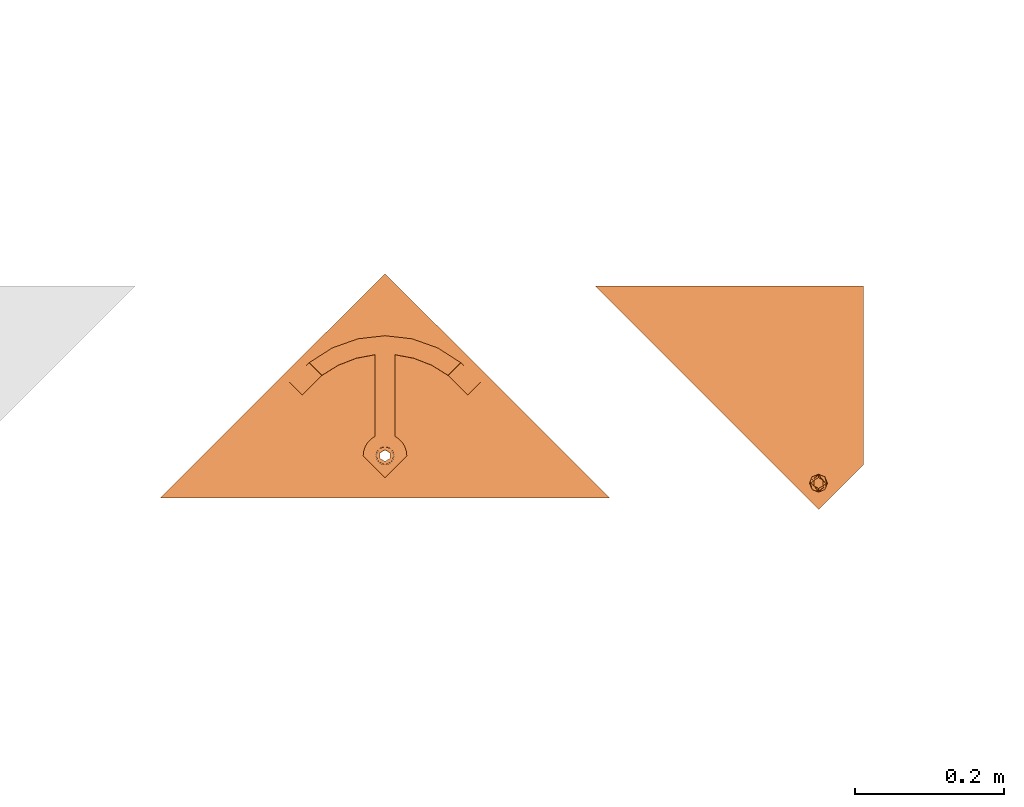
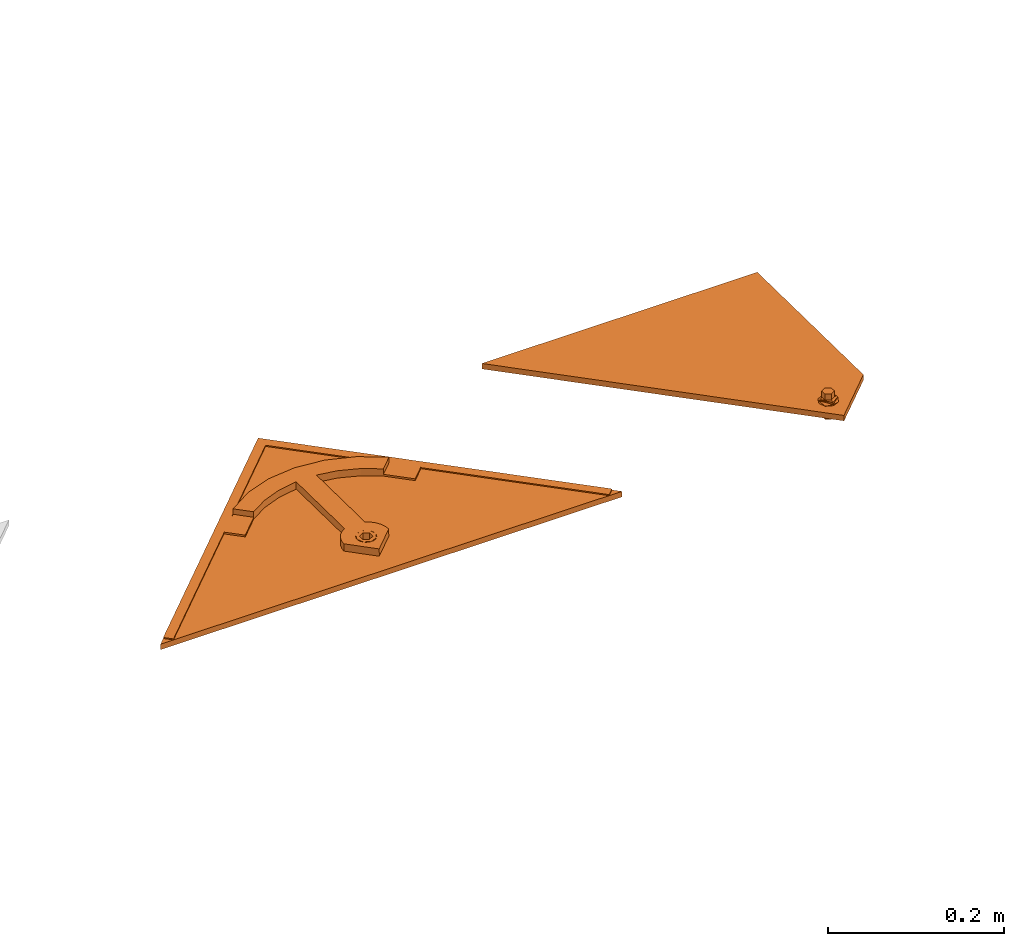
# One storey, part 125 of 151: 2 proxies.
"""IFC2X3 building model written with IfcOpenShell, lengths in millimetres."""

from ifc_helpers import new_model, entity, si_unit, converted_unit, derived_unit, direction, frame, origin, place, context, subcontext, project, spatial, faceted_brep, source, transform, mapped, material, material_list, type_object, type_shapes, element, save


model = new_model("IFC2X3")

# Units and contexts
model_context = context("Model", 3, precision=0.01, world=origin(), true_north=direction((6.12303176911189e-17, 1.0)))
body_context = subcontext(model_context, "Body", "Model", "MODEL_VIEW")
ifc_project = project(units=[si_unit("LENGTHUNIT", "METRE", prefix="MILLI"), si_unit("AREAUNIT", "SQUARE_METRE"), si_unit("VOLUMEUNIT", "CUBIC_METRE"), converted_unit("PLANEANGLEUNIT", "DEGREE", entity("IfcRatioMeasure", 0.0174532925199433), si_unit("PLANEANGLEUNIT", "RADIAN"), dimensions=[0, 0, 0, 0, 0, 0, 0]), si_unit("MASSUNIT", "GRAM", prefix="KILO"), derived_unit("MASSDENSITYUNIT", [(si_unit("MASSUNIT", "GRAM", prefix="KILO"), 1), (si_unit("LENGTHUNIT", "METRE"), -3)]), si_unit("TIMEUNIT", "SECOND"), si_unit("FREQUENCYUNIT", "HERTZ"), si_unit("THERMODYNAMICTEMPERATUREUNIT", "DEGREE_CELSIUS"), derived_unit("THERMALTRANSMITTANCEUNIT", [(si_unit("MASSUNIT", "GRAM", prefix="KILO"), 1), (si_unit("THERMODYNAMICTEMPERATUREUNIT", "KELVIN"), -1), (si_unit("TIMEUNIT", "SECOND"), -3)]), derived_unit("VOLUMETRICFLOWRATEUNIT", [(si_unit("LENGTHUNIT", "METRE"), 3), (si_unit("TIMEUNIT", "SECOND"), -1)]), si_unit("ELECTRICCURRENTUNIT", "AMPERE"), si_unit("ELECTRICVOLTAGEUNIT", "VOLT"), si_unit("POWERUNIT", "WATT"), si_unit("FORCEUNIT", "NEWTON", prefix="KILO"), si_unit("ILLUMINANCEUNIT", "LUX"), si_unit("LUMINOUSFLUXUNIT", "LUMEN"), si_unit("LUMINOUSINTENSITYUNIT", "CANDELA"), derived_unit("USERDEFINED", [(si_unit("MASSUNIT", "GRAM", prefix="KILO"), -1), (si_unit("LENGTHUNIT", "METRE"), -2), (si_unit("TIMEUNIT", "SECOND"), 3), (si_unit("LUMINOUSFLUXUNIT", "LUMEN"), 1)]), derived_unit("LINEARVELOCITYUNIT", [(si_unit("LENGTHUNIT", "METRE"), 1), (si_unit("TIMEUNIT", "SECOND"), -1)]), si_unit("PRESSUREUNIT", "PASCAL"), derived_unit("USERDEFINED", [(si_unit("LENGTHUNIT", "METRE"), -2), (si_unit("MASSUNIT", "GRAM", prefix="KILO"), 1), (si_unit("TIMEUNIT", "SECOND"), -2)])], contexts=[model_context])

# Site, building, storey
site_placement = place(None, origin())
site = spatial("IfcSite", under=ifc_project, at=site_placement, Name="Default", CompositionType="ELEMENT")
building_placement = place(site_placement, origin())
building = spatial("IfcBuilding", under=site, at=building_placement, CompositionType="ELEMENT")
storey_placement = place(building_placement, origin())
storey = spatial("IfcBuildingStorey", under=building, at=storey_placement, Name="Level 1", CompositionType="ELEMENT", Elevation=0.0)

# Proxies
ifc_material_1 = material(Name="Rubber - Sunstyle - Black")
ifc_material_2 = material(Name="Glass - Sunstyle - Tainted Black")
ifc_material_list_1 = material_list([ifc_material_1, ifc_material_2])
ifc_material_list_2 = material_list([ifc_material_1, ifc_material_2])
building_element_proxy_type_1 = type_object("IfcBuildingElementProxyType", Name="Shingle Bottom Small - Black", PredefinedType="NOTDEFINED", material=ifc_material_list_2)
shared_shape_1 = source(origin(), body_context, "Body", "Brep", [
    faceted_brep([(302.08842791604, 44.9093317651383, 22.0558382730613), (302.08842791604, 49.408700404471, 21.980485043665), (293.484723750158, 48.4726030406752, 21.9961623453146), (310.692132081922, 48.4726030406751, 21.9961623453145), (308.728656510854, 53.2419006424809, 21.9162884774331), (314.255903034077, 57.0751008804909, 21.8520919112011), (308.728656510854, 60.9083011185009, 21.7878953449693), (310.692132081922, 65.6775987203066, 21.7080214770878), (302.08842791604, 64.7415013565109, 21.7236987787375), (302.08842791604, 69.2408699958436, 21.6483455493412), (293.484723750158, 65.6775987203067, 21.708021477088), (295.448199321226, 60.908301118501, 21.7878953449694), (289.920952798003, 57.0751008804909, 21.8520919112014), (295.448199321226, 53.2419006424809, 21.9162884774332), (295.448199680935, 60.6403782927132, 5.79013870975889), (302.08842791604, 64.473578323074, 5.72594214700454), (295.448199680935, 52.9739782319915, 5.91853183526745), (302.08842791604, 49.1407782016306, 5.98272839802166), (308.728656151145, 52.9739782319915, 5.91853183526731), (308.728656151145, 60.6403782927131, 5.79013870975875), (293.484723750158, 48.2046804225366, 5.99840570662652), (302.08842791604, 44.6414091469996, 6.05808163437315), (289.920952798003, 56.8071782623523, 5.85433527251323), (293.484723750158, 65.4096761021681, 5.71026483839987), (302.08842791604, 68.972947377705, 5.65058891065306), (310.692132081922, 65.409676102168, 5.71026483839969), (314.255903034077, 56.8071782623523, 5.85433527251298), (310.692132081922, 48.2046804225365, 5.99840570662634)], [[[0, 1, 2]], [[1, 0, 3]], [[3, 4, 1]], [[4, 3, 5]], [[6, 4, 5]], [[5, 7, 6]], [[7, 8, 6]], [[8, 7, 9]], [[8, 9, 10]], [[10, 11, 8]], [[12, 11, 10]], [[2, 13, 12]], [[12, 13, 11]], [[13, 2, 1]], [[8, 11, 14, 15]], [[11, 13, 16, 14]], [[13, 1, 17, 16]], [[1, 4, 18, 17]], [[4, 6, 19, 18]], [[6, 8, 15, 19]], [[20, 17, 21]], [[17, 20, 16]], [[22, 16, 20]], [[14, 16, 22]], [[23, 14, 22]], [[15, 14, 23]], [[23, 24, 15]], [[24, 25, 15]], [[19, 15, 25]], [[19, 25, 26]], [[26, 18, 19]], [[26, 27, 18]], [[17, 18, 27]], [[27, 21, 17]], [[24, 23, 10, 9]], [[10, 23, 22, 12]], [[20, 21, 0, 2]], [[20, 2, 12, 22]], [[21, 27, 3, 0]], [[3, 27, 26, 5]], [[25, 24, 9, 7]], [[25, 7, 5, 26]]]),
    faceted_brep([(587.35835892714, 0.0, 12.5593198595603), (595.843045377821, 8.4846864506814, 12.4172224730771), (595.843045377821, 8.50980419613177, 13.9170121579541), (587.35835892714, 0.0251177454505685, 14.0591095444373), (302.088750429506, 285.189618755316, 7.7831033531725), (16.8191419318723, 0.0, 12.5593198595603), (8.33445548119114, 8.48468645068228, 12.4172224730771), (302.088750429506, 302.156612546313, 7.49894842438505), (302.088750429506, 302.181730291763, 8.9987381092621), (8.33445548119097, 8.50980419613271, 13.9170121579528), (16.8191419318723, 0.0251177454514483, 14.0591095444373), (302.088750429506, 285.214736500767, 9.28289303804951)], [[[0, 1, 2, 3]], [[1, 0, 4, 5, 6, 7]], [[2, 1, 7, 8]], [[3, 2, 8, 9, 10, 11]], [[0, 3, 11, 4]], [[5, 10, 9, 6]], [[8, 7, 6, 9]], [[4, 11, 10, 5]]]),
    faceted_brep([(302.088750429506, 302.156612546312, 7.49894842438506), (305.194256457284, 68.3255429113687, 11.4150370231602), (308.088427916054, 67.1269059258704, 11.4351112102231), (302.088427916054, 68.7343756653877, 11.4081900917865), (310.573709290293, 65.2201498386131, 11.4670446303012), (298.982599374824, 68.3255429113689, 11.4150370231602), (296.088427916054, 67.1269059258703, 11.4351112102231), (293.603146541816, 65.2201498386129, 11.4670446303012), (312.480732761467, 62.7352169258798, 11.5086610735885), (604.177500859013, 0.152567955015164, 12.5567647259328), (291.696123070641, 62.7352169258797, 11.5086610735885), (0.0, 0.152567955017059, 12.5567647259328), (290.497318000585, 59.8414512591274, 11.5571244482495), (290.088427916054, 56.7360581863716, 11.6091320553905), (290.497318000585, 53.6306651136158, 11.6611396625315), (291.696123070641, 50.7368994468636, 11.7096030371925), (293.603146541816, 48.2519665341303, 11.7512194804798), (296.088427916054, 46.3452104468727, 11.7831529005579), (298.982599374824, 45.1465734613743, 11.8032270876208), (302.088427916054, 44.7377407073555, 11.8100740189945), (313.679537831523, 59.8414512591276, 11.5571244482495), (314.088427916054, 56.7360581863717, 11.6091320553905), (313.679537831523, 53.6306651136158, 11.6611396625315), (312.480732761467, 50.7368994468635, 11.7096030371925), (310.573709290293, 48.2519665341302, 11.7512194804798), (308.088427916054, 46.3452104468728, 11.7831529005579), (305.194256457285, 45.1465734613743, 11.8032270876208), (0.0, 0.0269792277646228, 5.0578163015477), (290.088427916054, 56.6104694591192, 4.11018363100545), (290.497318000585, 53.5050763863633, 4.16219123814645), (290.497318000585, 59.7158625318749, 4.05817602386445), (291.696123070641, 50.6113107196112, 4.21065461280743), (291.696123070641, 62.6096281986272, 4.00971264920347), (302.088750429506, 302.031023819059, 0.0), (293.603146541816, 48.1263778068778, 4.25227105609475), (296.088427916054, 46.2196217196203, 4.28420447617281), (298.982599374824, 45.0209847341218, 4.30427866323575), (302.088427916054, 44.612151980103, 4.31112559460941), (604.177500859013, 0.0269792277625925, 5.05781630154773), (293.603146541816, 65.0945611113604, 3.96809620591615), (296.088427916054, 67.0013171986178, 3.93616278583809), (298.982599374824, 68.1999541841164, 3.91608859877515), (302.088427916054, 68.6087869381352, 3.90924166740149), (305.194256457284, 68.1999541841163, 3.91608859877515), (308.088427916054, 67.0013171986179, 3.93616278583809), (310.573709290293, 65.0945611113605, 3.96809620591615), (312.480732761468, 62.6096281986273, 4.00971264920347), (305.194256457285, 45.0209847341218, 4.30427866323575), (308.088427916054, 46.2196217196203, 4.28420447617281), (313.679537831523, 59.7158625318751, 4.05817602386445), (314.088427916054, 56.6104694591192, 4.11018363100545), (313.679537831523, 53.5050763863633, 4.16219123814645), (312.480732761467, 50.611310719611, 4.21065461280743), (310.573709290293, 48.1263778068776, 4.25227105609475)], [[[0, 1, 2]], [[1, 0, 3]], [[0, 2, 4]], [[5, 3, 0]], [[6, 5, 0]], [[0, 7, 6]], [[8, 0, 4]], [[0, 8, 9]], [[7, 0, 10]], [[0, 11, 10]], [[12, 10, 11]], [[11, 13, 12]], [[13, 11, 14]], [[15, 14, 11]], [[11, 16, 15]], [[17, 16, 11]], [[17, 11, 18]], [[19, 18, 11]], [[19, 11, 9]], [[9, 8, 20]], [[20, 21, 9]], [[21, 22, 9]], [[22, 23, 9]], [[9, 23, 24]], [[24, 25, 9]], [[25, 26, 9]], [[9, 26, 19]], [[27, 28, 29]], [[28, 27, 30]], [[27, 29, 31]], [[32, 30, 27]], [[32, 27, 33]], [[31, 34, 27]], [[34, 35, 27]], [[35, 36, 27]], [[36, 37, 27]], [[27, 37, 38]], [[33, 39, 32]], [[40, 39, 33]], [[41, 40, 33]], [[42, 41, 33]], [[33, 43, 42]], [[43, 33, 44]], [[45, 44, 33]], [[33, 46, 45]], [[46, 33, 38]], [[38, 37, 47]], [[47, 48, 38]], [[49, 46, 38]], [[38, 50, 49]], [[50, 38, 51]], [[52, 51, 38]], [[53, 52, 38]], [[53, 38, 48]], [[11, 0, 33, 27]], [[0, 9, 38, 33]], [[13, 28, 30, 12]], [[12, 30, 32, 10]], [[6, 7, 39, 40]], [[39, 7, 10, 32]], [[5, 6, 40, 41]], [[5, 41, 42, 3]], [[3, 42, 43, 1]], [[1, 43, 44, 2]], [[8, 4, 45, 46]], [[45, 4, 2, 44]], [[20, 8, 46, 49]], [[20, 49, 50, 21]], [[21, 50, 51, 22]], [[22, 51, 52, 23]], [[25, 24, 53, 48]], [[53, 24, 23, 52]], [[26, 25, 48, 47]], [[26, 47, 37, 19]], [[19, 37, 36, 18]], [[18, 36, 35, 17]], [[15, 16, 34, 31]], [[34, 16, 17, 35]], [[14, 15, 31, 29]], [[14, 29, 28, 13]], [[9, 11, 27, 38]]]),
    faceted_brep([(190.819384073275, 138.646056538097, 12.7376939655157), (217.144031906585, 164.967013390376, 12.2968834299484), (200.060856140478, 182.04779392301, 12.0108228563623), (193.80845410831, 176.686146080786, 12.100617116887), (187.837458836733, 171.012871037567, 12.1956303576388), (173.141714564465, 156.321247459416, 12.4416784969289), (431.035141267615, 156.321247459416, 12.4416784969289), (416.339396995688, 171.012871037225, 12.1956303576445), (410.36840172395, 176.686146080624, 12.1006171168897), (404.115999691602, 182.047793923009, 12.0108228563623), (387.031626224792, 164.968210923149, 12.2968633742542), (413.357471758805, 138.646056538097, 12.7376939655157), (296.088427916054, 67.294357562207, 21.4337091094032), (288.788427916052, 83.1076295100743, 21.1688761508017), (283.384321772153, 79.569581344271, 21.2281296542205), (293.603146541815, 65.3876014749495, 21.4656425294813), (298.982599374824, 68.4929945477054, 21.4136349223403), (302.088427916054, 68.9018273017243, 21.4067879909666), (315.388427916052, 83.107629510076, 21.1688761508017), (305.194256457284, 68.4929945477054, 21.4136349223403), (308.088427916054, 67.2943575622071, 21.4337091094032), (320.792534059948, 79.5695813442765, 21.2281296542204), (310.573709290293, 65.3876014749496, 21.4656425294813), (325.293078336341, 74.9365758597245, 21.3057209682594), (312.480732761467, 62.9026685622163, 21.5072589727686), (328.672647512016, 69.4324252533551, 21.3979017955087), (313.679537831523, 60.0089028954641, 21.5557223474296), (330.767980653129, 63.323025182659, 21.500219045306), (314.088427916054, 56.9035098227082, 21.6077299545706), (331.477855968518, 56.9035098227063, 21.6077299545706), (313.679537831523, 53.7981167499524, 21.6597375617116), (312.480732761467, 50.9043510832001, 21.7082009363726), (310.573709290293, 48.4194181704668, 21.7498173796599), (302.08842791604, 27.5182024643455, 22.0998607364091), (308.088427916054, 46.5126620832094, 21.7817507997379), (305.194256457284, 45.314025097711, 21.8018249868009), (302.088427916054, 44.9051923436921, 21.8086719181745), (298.982599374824, 45.314025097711, 21.8018249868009), (296.088427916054, 46.5126620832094, 21.7817507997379), (293.603146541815, 48.4194181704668, 21.7498173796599), (272.69899986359, 56.903509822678, 21.6077299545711), (291.696123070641, 50.9043510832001, 21.7082009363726), (290.497318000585, 53.7981167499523, 21.6597375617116), (290.088427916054, 56.9035098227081, 21.6077299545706), (273.408875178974, 63.3230251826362, 21.5002190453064), (290.497318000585, 60.008902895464, 21.5557223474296), (275.504208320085, 69.4324252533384, 21.397901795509), (291.696123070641, 62.9026685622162, 21.5072589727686), (278.883777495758, 74.9365758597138, 21.3057209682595), (288.788427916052, 192.984512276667, 19.3287117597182), (315.388427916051, 192.984512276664, 19.3287117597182), (302.088427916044, 218.456125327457, 18.9021256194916), (338.579268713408, 214.282159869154, 18.9720291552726), (340.858170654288, 188.169632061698, 19.4093490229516), (373.184513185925, 201.975945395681, 19.1781276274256), (365.012761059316, 178.765998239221, 19.5668364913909), (404.115999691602, 182.173382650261, 19.5097712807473), (387.032823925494, 165.092602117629, 19.7958318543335), (265.59758711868, 214.28215986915, 18.9720291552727), (263.318685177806, 188.169632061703, 19.4093490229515), (230.992342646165, 201.975945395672, 19.1781276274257), (239.164094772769, 178.765998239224, 19.5668364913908), (200.06085614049, 182.173382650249, 19.5097712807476), (217.144031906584, 165.092602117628, 19.7958318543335), (302.08842791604, 27.3507508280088, 12.1012628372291), (302.088427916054, 44.7377407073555, 11.8100740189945), (305.194256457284, 45.1465734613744, 11.8032270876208), (298.982599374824, 45.1465734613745, 11.8032270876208), (308.088427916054, 46.3452104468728, 11.7831529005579), (310.573709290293, 48.2519665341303, 11.7512194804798), (331.477855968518, 56.7360581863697, 11.6091320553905), (296.088427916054, 46.3452104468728, 11.7831529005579), (293.603146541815, 48.2519665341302, 11.7512194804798), (272.69899986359, 56.7360581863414, 11.609132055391), (291.696123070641, 50.7368994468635, 11.7096030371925), (290.497318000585, 53.6306651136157, 11.6611396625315), (290.088427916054, 56.7360581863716, 11.6091320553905), (273.408875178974, 63.1555735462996, 11.5016211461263), (290.497318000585, 59.8414512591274, 11.5571244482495), (275.504208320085, 69.2649736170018, 11.3993038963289), (291.696123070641, 62.7352169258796, 11.5086610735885), (278.883777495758, 74.7691242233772, 11.3071230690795), (293.603146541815, 65.2201498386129, 11.4670446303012), (283.384321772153, 79.4021297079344, 11.2295317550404), (296.088427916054, 67.1269059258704, 11.4351112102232), (288.788427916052, 82.9401778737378, 11.1702782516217), (298.982599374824, 68.3255429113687, 11.4150370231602), (302.088427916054, 68.7343756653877, 11.4081900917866), (315.388427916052, 82.9401778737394, 11.1702782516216), (288.788427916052, 192.81706064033, 9.33011386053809), (315.388427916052, 192.817060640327, 9.33011386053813), (302.088427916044, 218.28867369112, 8.90352772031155), (265.59758711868, 214.114708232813, 8.97343125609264), (263.318685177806, 188.002180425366, 9.41075112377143), (230.992342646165, 201.808493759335, 9.17952972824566), (239.164094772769, 178.598546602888, 9.56823859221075), (200.06085614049, 182.005931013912, 9.51117338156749), (217.145229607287, 164.926348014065, 9.79721389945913), (193.80845410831, 176.644283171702, 9.60096764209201), (187.837458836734, 170.971008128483, 9.69598088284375), (190.819384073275, 138.604193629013, 10.2380444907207), (173.141714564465, 156.279384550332, 9.94202902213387), (338.579268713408, 214.114708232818, 8.97343125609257), (340.858170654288, 188.002180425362, 9.41075112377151), (373.184513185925, 201.808493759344, 9.17952972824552), (365.012761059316, 178.598546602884, 9.5682385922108), (404.115999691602, 182.005931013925, 9.51117338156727), (387.032823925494, 164.925150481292, 9.79723395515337), (410.36840172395, 176.64428317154, 9.60096764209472), (416.339396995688, 170.971008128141, 9.69598088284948), (413.357471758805, 138.604193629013, 10.2380444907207), (431.035141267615, 156.279384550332, 9.94202902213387), (305.194256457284, 68.3255429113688, 11.4150370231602), (308.088427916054, 67.1269059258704, 11.4351112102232), (320.792534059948, 79.4021297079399, 11.2295317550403), (310.573709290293, 65.220149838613, 11.4670446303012), (325.293078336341, 74.7691242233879, 11.3071230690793), (312.480732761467, 62.7352169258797, 11.5086610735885), (328.672647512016, 69.2649736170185, 11.3993038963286), (313.679537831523, 59.8414512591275, 11.5571244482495), (330.767980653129, 63.1555735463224, 11.5016211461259), (314.088427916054, 56.7360581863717, 11.6091320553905), (312.480732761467, 50.7368994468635, 11.7096030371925), (313.679537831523, 53.6306651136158, 11.6611396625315)], [[[0, 1, 2, 3, 4, 5]], [[6, 7, 8, 9, 10, 11]], [[12, 13, 14]], [[12, 14, 15]], [[16, 13, 12]], [[17, 13, 16]], [[18, 13, 17]], [[17, 19, 18]], [[19, 20, 18]], [[20, 21, 18]], [[21, 20, 22]], [[21, 22, 23]], [[24, 23, 22]], [[23, 24, 25]], [[24, 26, 25]], [[27, 25, 26]], [[26, 28, 27]], [[29, 27, 28]], [[28, 30, 29]], [[30, 31, 29]], [[29, 31, 32]], [[32, 33, 29]], [[32, 34, 33]], [[35, 33, 34]], [[36, 33, 35]], [[33, 36, 37]], [[38, 33, 37]], [[38, 39, 33]], [[40, 33, 39]], [[41, 40, 39]], [[41, 42, 40]], [[42, 43, 40]], [[43, 44, 40]], [[45, 44, 43]], [[45, 46, 44]], [[45, 47, 46]], [[48, 46, 47]], [[48, 47, 15]], [[48, 15, 14]], [[18, 49, 13]], [[50, 49, 18]], [[51, 49, 50]], [[50, 52, 51]], [[50, 53, 52]], [[52, 53, 54]], [[53, 55, 54]], [[56, 54, 55]], [[57, 56, 55]], [[58, 49, 51]], [[49, 58, 59]], [[60, 59, 58]], [[60, 61, 59]], [[61, 60, 62]], [[62, 63, 61]], [[64, 65, 66]], [[65, 64, 67]], [[64, 66, 68]], [[68, 69, 64]], [[64, 69, 70]], [[71, 67, 64]], [[71, 64, 72]], [[72, 64, 73]], [[73, 74, 72]], [[74, 73, 75]], [[75, 73, 76]], [[77, 76, 73]], [[76, 77, 78]], [[78, 77, 79]], [[80, 78, 79]], [[81, 80, 79]], [[82, 80, 81]], [[83, 82, 81]], [[83, 84, 82]], [[85, 84, 83]], [[85, 86, 84]], [[87, 86, 85]], [[88, 87, 85]], [[89, 88, 85]], [[88, 89, 90]], [[89, 91, 90]], [[91, 89, 92]], [[93, 92, 89]], [[92, 93, 94]], [[95, 94, 93]], [[96, 94, 95]], [[95, 97, 96]], [[97, 98, 96]], [[98, 97, 99]], [[97, 100, 99]], [[99, 100, 101]], [[90, 91, 102]], [[103, 90, 102]], [[103, 102, 104]], [[105, 103, 104]], [[106, 105, 104]], [[107, 105, 106]], [[106, 108, 107]], [[109, 107, 108]], [[110, 107, 109]], [[109, 111, 110]], [[112, 87, 88]], [[113, 112, 88]], [[114, 113, 88]], [[115, 113, 114]], [[115, 114, 116]], [[116, 117, 115]], [[117, 116, 118]], [[118, 119, 117]], [[120, 119, 118]], [[121, 120, 70]], [[120, 121, 119]], [[70, 69, 122]], [[122, 123, 70]], [[123, 121, 70]], [[13, 49, 89, 85]], [[14, 13, 85, 83]], [[48, 14, 83, 81]], [[81, 79, 46, 48]], [[44, 46, 79, 77]], [[40, 44, 77, 73]], [[33, 40, 73, 64]], [[0, 5, 101, 100]], [[29, 33, 64, 70]], [[6, 11, 110, 111]], [[27, 29, 70, 120]], [[25, 27, 120, 118]], [[118, 116, 23, 25]], [[21, 23, 116, 114]], [[18, 21, 114, 88]], [[50, 18, 88, 90]], [[9, 106, 104, 54, 56]], [[52, 54, 104, 102]], [[51, 52, 102, 91]], [[58, 51, 91, 92]], [[94, 96, 2, 62, 60]], [[60, 58, 92, 94]], [[43, 76, 78, 45]], [[45, 78, 80, 47]], [[12, 15, 82, 84]], [[80, 82, 15, 47]], [[16, 12, 84, 86]], [[87, 17, 16, 86]], [[19, 112, 113, 20]], [[20, 113, 115, 22]], [[26, 24, 117, 119]], [[115, 117, 24, 22]], [[28, 26, 119, 121]], [[19, 17, 87, 112]], [[28, 121, 123, 30]], [[30, 123, 122, 31]], [[34, 32, 69, 68]], [[122, 69, 32, 31]], [[35, 34, 68, 66]], [[65, 36, 35, 66]], [[37, 67, 71, 38]], [[38, 71, 72, 39]], [[42, 41, 74, 75]], [[72, 74, 41, 39]], [[43, 42, 75, 76]], [[37, 36, 65, 67]], [[7, 6, 111, 109]], [[7, 109, 108, 8]], [[108, 106, 9, 8]], [[11, 10, 107, 110]], [[1, 0, 100, 97]], [[2, 96, 98, 3]], [[98, 99, 4, 3]], [[5, 4, 99, 101]], [[63, 62, 2, 1]], [[56, 57, 10]], [[10, 9, 56]], [[1, 95, 61, 63]], [[1, 97, 95]], [[93, 89, 49, 59]], [[95, 93, 59, 61]], [[90, 103, 53, 50]], [[103, 105, 55, 53]], [[10, 57, 55]], [[107, 10, 105]], [[55, 105, 10]]]),
])
type_shapes(building_element_proxy_type_1, [shared_shape_1])
proxy_1_placement = place(storey_placement, frame((-636.400332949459, 9796.19317128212, -1.73631824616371)))
element("IfcBuildingElementProxy", 1, at=proxy_1_placement, inside=storey, type_object=building_element_proxy_type_1, material=ifc_material_list_1, Name="Roofing_Panels_SunStyle_Tile_Shingle-Bottom-Small:Shingle Bottom Small - Black", ObjectType="Roofing_Panels_SunStyle_Tile_Shingle-Bottom-Small:Shingle Bottom Small - Black", context=body_context, shape_type="MappedRepresentation", body=[
    mapped(shared_shape_1, transform((0.0, 0.0, 0.0), scale=1.0)),
])
ifc_material_list_3 = material_list([ifc_material_1, ifc_material_2])
ifc_material_list_4 = material_list([ifc_material_1, ifc_material_2])
building_element_proxy_type_2 = type_object("IfcBuildingElementProxyType", Name="Corner Top Small Right - Black", PredefinedType="NOTDEFINED", material=ifc_material_list_4)
shared_shape_2 = source(origin(), body_context, "Body", "Brep", [
    faceted_brep([(300.309183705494, 41.6050579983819, 1.59527223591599), (294.534980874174, 38.2717878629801, 1.65109621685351), (294.534980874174, 38.6400969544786, 23.6429655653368), (300.309183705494, 41.9733670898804, 23.5871415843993), (294.534980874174, 31.6052475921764, 1.76274417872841), (294.534980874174, 31.9735566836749, 23.7546135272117), (300.309183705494, 28.2719774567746, 1.81856815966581), (300.309183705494, 28.640286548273, 23.8104375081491), (306.083386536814, 31.6052475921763, 1.7627441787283), (306.083386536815, 31.9735566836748, 23.7546135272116), (306.083386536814, 38.2717878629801, 1.65109621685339), (306.083386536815, 38.6400969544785, 23.6429655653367), (291.705479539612, 26.704328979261, 23.8428599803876), (300.309183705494, 23.1410577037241, 23.9025359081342), (288.141708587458, 35.3068268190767, 23.6987895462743), (291.705479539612, 43.9093246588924, 23.5547191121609), (300.309183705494, 47.4725959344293, 23.4950431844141), (308.912887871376, 43.9093246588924, 23.5547191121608), (312.476658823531, 35.3068268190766, 23.6987895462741), (308.912887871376, 26.704328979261, 23.8428599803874), (288.984939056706, 37.6019039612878, 26.0116314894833), (290.552709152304, 35.3778417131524, 27.9391141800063), (300.309183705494, 42.6909169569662, 28.5718145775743), (300.309183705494, 43.9314145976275, 27.9914679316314), (300.309183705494, 46.0889654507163, 26.98209285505), (300.309183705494, 23.6971017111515, 25.1775938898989), (300.309183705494, 24.6406783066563, 27.3412982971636), (300.309183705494, 28.0900540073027, 28.8163427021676), (300.309183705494, 46.9595598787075, 24.7880055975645), (293.985938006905, 31.7402697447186, 28.7552106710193), (293.985938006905, 39.0407012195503, 28.6329466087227), (311.633428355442, 33.0904837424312, 26.0871865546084), (310.15806385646, 34.3034352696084, 27.8602460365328), (306.632429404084, 39.0407012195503, 28.6329466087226), (306.632429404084, 31.7402697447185, 28.7552106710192), (293.985938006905, 31.8742982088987, 36.7580988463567), (300.309183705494, 28.224082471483, 36.8192308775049), (300.309183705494, 35.5245139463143, 36.6969668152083), (293.985938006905, 39.17472968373, 36.6358347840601), (306.632429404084, 31.8742982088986, 36.7580988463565), (306.632429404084, 39.1747296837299, 36.6358347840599), (300.309183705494, 42.8249454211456, 36.5747027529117), (300.309183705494, 34.9385177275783, 1.7069201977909)], [[[0, 1, 2, 3]], [[1, 4, 5, 2]], [[4, 6, 7, 5]], [[6, 8, 9, 7]], [[8, 10, 11, 9]], [[10, 0, 3, 11]], [[12, 7, 13]], [[7, 12, 5]], [[14, 5, 12]], [[5, 14, 2]], [[15, 2, 14]], [[3, 2, 15]], [[15, 16, 3]], [[16, 17, 3]], [[11, 3, 17]], [[11, 17, 18]], [[9, 11, 18]], [[18, 19, 9]], [[7, 9, 19]], [[19, 13, 7]], [[20, 14, 12]], [[21, 22, 23, 24]], [[24, 20, 21]], [[25, 20, 12]], [[26, 27, 21]], [[15, 14, 20]], [[12, 13, 25]], [[20, 28, 15]], [[28, 20, 24]], [[21, 27, 29]], [[21, 29, 30]], [[26, 21, 20]], [[20, 25, 26]], [[15, 28, 16]], [[21, 30, 22]], [[31, 18, 17]], [[28, 31, 17]], [[32, 27, 26]], [[26, 31, 32]], [[26, 25, 31]], [[25, 19, 31]], [[17, 16, 28]], [[31, 19, 18]], [[24, 31, 28]], [[33, 34, 32]], [[23, 22, 33]], [[24, 32, 31]], [[27, 32, 34]], [[32, 23, 33]], [[19, 25, 13]], [[32, 24, 23]], [[35, 36, 37]], [[37, 38, 35]], [[36, 39, 37]], [[40, 37, 39]], [[37, 40, 41]], [[37, 41, 38]], [[42, 6, 4]], [[4, 1, 42]], [[1, 0, 42]], [[42, 8, 6]], [[0, 10, 42]], [[8, 42, 10]], [[22, 30, 38, 41]], [[30, 29, 35, 38]], [[29, 27, 36, 35]], [[27, 34, 39, 36]], [[34, 33, 40, 39]], [[33, 22, 41, 40]]]),
    faceted_brep([(300.700466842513, 0.125588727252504, 24.1962208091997), (304.302649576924, 28.4261395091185, 23.7222570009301), (302.373201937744, 27.6270481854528, 23.7356397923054), (305.959503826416, 29.6973102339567, 23.7009680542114), (300.302649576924, 27.3544930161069, 23.7402044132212), (307.230852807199, 31.3539321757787, 23.6732237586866), (360.803898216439, 60.2121670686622, 23.189920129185), (298.232097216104, 27.6270481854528, 23.7356397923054), (296.302649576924, 28.4261395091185, 23.7222570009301), (294.645795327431, 29.6973102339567, 23.7009680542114), (293.374446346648, 31.3539321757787, 23.6732237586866), (292.575242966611, 33.2831092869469, 23.6409148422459), (0.0, 300.741739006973, 19.1616482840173), (308.030056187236, 33.2831092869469, 23.6409148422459), (308.302649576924, 35.3533713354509, 23.6062431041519), (308.030056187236, 37.4236333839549, 23.5715713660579), (307.230852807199, 39.3528104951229, 23.5392624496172), (305.959503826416, 41.0094324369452, 23.5115181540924), (304.302649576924, 42.2806031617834, 23.4902292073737), (302.373201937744, 43.079694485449, 23.4768464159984), (300.302649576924, 43.3522496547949, 23.4722817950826), (360.803898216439, 300.741739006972, 19.1616482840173), (298.232097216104, 43.079694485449, 23.4768464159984), (296.302649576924, 42.2806031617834, 23.4902292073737), (294.645795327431, 41.009432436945, 23.5115181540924), (292.302649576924, 35.3533713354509, 23.6062431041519), (292.575242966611, 37.4236333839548, 23.5715713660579), (293.374446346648, 39.3528104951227, 23.5392624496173), (300.302649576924, 43.2266609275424, 15.9733333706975), (360.803898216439, 300.616150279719, 11.6626998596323), (360.803898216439, 60.0865783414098, 15.6909717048), (302.373201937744, 42.9541057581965, 15.9778979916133), (298.232097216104, 42.9541057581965, 15.9778979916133), (296.302649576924, 42.1550144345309, 15.9912807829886), (0.0, 300.61615027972, 11.6626998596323), (294.645795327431, 40.8838437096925, 16.0125697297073), (293.374446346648, 39.2272217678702, 16.0403140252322), (292.575242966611, 37.2980446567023, 16.0726229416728), (292.302649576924, 35.2277826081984, 16.1072946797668), (292.575242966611, 33.1575205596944, 16.1419664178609), (300.700466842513, 0.0, 16.6972723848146), (293.374446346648, 31.2283434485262, 16.1742753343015), (294.645795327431, 29.5717215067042, 16.2020196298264), (296.302649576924, 28.300550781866, 16.2233085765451), (298.232097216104, 27.5014594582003, 16.2366913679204), (300.302649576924, 27.2289042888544, 16.2412559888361), (302.373201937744, 27.5014594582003, 16.2366913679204), (304.302649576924, 28.300550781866, 16.2233085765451), (305.959503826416, 29.5717215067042, 16.2020196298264), (307.230852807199, 31.2283434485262, 16.1742753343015), (308.030056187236, 33.1575205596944, 16.1419664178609), (308.302649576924, 35.2277826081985, 16.1072946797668), (308.030056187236, 37.2980446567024, 16.0726229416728), (307.230852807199, 39.2272217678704, 16.0403140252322), (305.959503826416, 40.8838437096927, 16.0125697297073), (304.302649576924, 42.1550144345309, 15.9912807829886)], [[[0, 1, 2]], [[1, 0, 3]], [[0, 2, 4]], [[5, 3, 0]], [[5, 0, 6]], [[4, 7, 0]], [[7, 8, 0]], [[8, 9, 0]], [[9, 10, 0]], [[10, 11, 0]], [[0, 11, 12]], [[6, 13, 5]], [[14, 13, 6]], [[15, 14, 6]], [[16, 15, 6]], [[17, 16, 6]], [[6, 18, 17]], [[19, 18, 6]], [[19, 6, 20]], [[6, 21, 20]], [[20, 21, 22]], [[23, 22, 21]], [[12, 23, 21]], [[23, 12, 24]], [[11, 25, 12]], [[26, 12, 25]], [[26, 27, 12]], [[27, 24, 12]], [[28, 29, 30]], [[28, 30, 31]], [[32, 29, 28]], [[32, 33, 29]], [[29, 33, 34]], [[33, 35, 34]], [[35, 36, 34]], [[36, 37, 34]], [[34, 37, 38]], [[38, 39, 34]], [[40, 34, 39]], [[39, 41, 40]], [[41, 42, 40]], [[42, 43, 40]], [[44, 40, 43]], [[44, 45, 40]], [[46, 40, 45]], [[40, 46, 47]], [[47, 48, 40]], [[48, 49, 40]], [[50, 30, 49]], [[30, 40, 49]], [[50, 51, 30]], [[30, 51, 52]], [[52, 53, 30]], [[53, 54, 30]], [[54, 55, 30]], [[31, 30, 55]], [[0, 12, 34, 40]], [[6, 0, 40, 30]], [[25, 38, 37, 26]], [[26, 37, 36, 27]], [[23, 24, 35, 33]], [[35, 24, 27, 36]], [[22, 23, 33, 32]], [[22, 32, 28, 20]], [[20, 28, 31, 19]], [[19, 31, 55, 18]], [[16, 17, 54, 53]], [[54, 17, 18, 55]], [[15, 16, 53, 52]], [[15, 52, 51, 14]], [[14, 51, 50, 13]], [[13, 50, 49, 5]], [[1, 3, 48, 47]], [[48, 3, 5, 49]], [[2, 1, 47, 46]], [[2, 46, 45, 4]], [[4, 45, 44, 7]], [[7, 44, 43, 8]], [[10, 9, 42, 41]], [[42, 9, 8, 43]], [[11, 10, 41, 39]], [[11, 39, 38, 25]], [[12, 21, 29, 34]], [[21, 6, 30, 29]]]),
])
type_shapes(building_element_proxy_type_2, [shared_shape_2])
proxy_2_placement = place(storey_placement, frame((-51.1380299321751, 9780.85327205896, 2.41109682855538)))
element("IfcBuildingElementProxy", 2, at=proxy_2_placement, inside=storey, type_object=building_element_proxy_type_2, material=ifc_material_list_3, Name="Roofing_Panels_SunStyle_Tile_Corner-Top-Small-Right:Corner Top Small Right - Black", ObjectType="Roofing_Panels_SunStyle_Tile_Corner-Top-Small-Right:Corner Top Small Right - Black", context=body_context, shape_type="MappedRepresentation", body=[
    mapped(shared_shape_2, transform((0.0, 0.0, 0.0), scale=1.0)),
])

save(model, "model.ifc")
